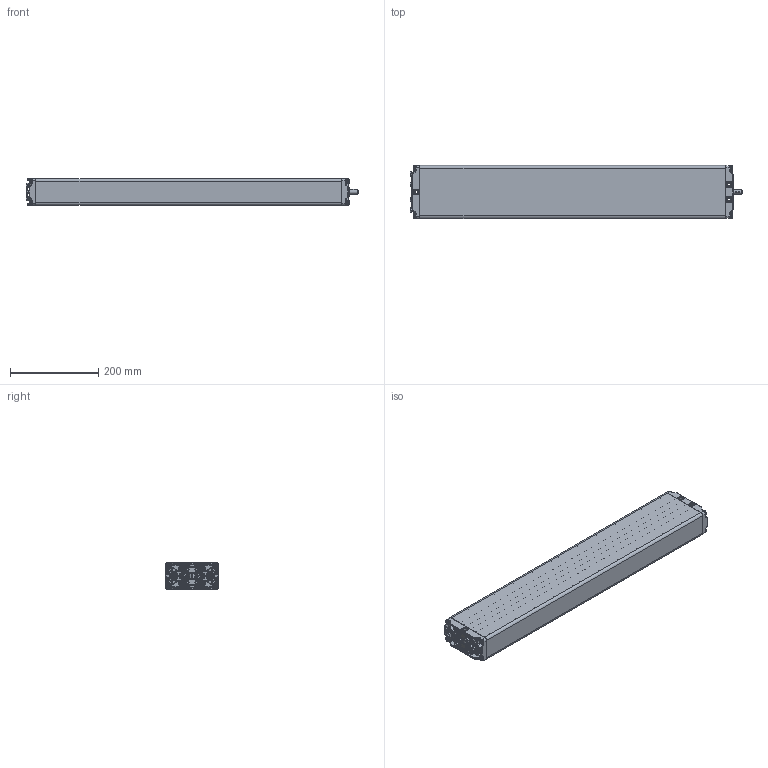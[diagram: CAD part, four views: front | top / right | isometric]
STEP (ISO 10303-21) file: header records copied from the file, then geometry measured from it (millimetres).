
FILE_DESCRIPTION(/* description */ ('Unknown'),/* implementation_level */ '2;1');
FILE_NAME(/* name */ '102.20045 Pumpe PB 6850 W',/* time_stamp */ '2016-09-05T17:39:30+02:00',/* author */ ('Unknown'),/* organization */ ('Unknown'),/* preprocessor_version */ 'ST-DEVELOPER v16.7',/* originating_system */ 'DEX',/* authorisation */ $);
FILE_SCHEMA (('AUTOMOTIVE_DESIGN {1 0 10303 214 3 1 1}'));
Products named in the file (14): 102.20045; 115.00035; 125.00045; 115.00008; 142.00021; 125.00021; 142.00013; 125.00145; 115.00140; 126.00006; 122.00040; 119.00045; 126.00005; 142.00057
Assembly tree (25 placements, depth 3):
  102.20045
    115.00035  x6
      125.00045
      115.00008
      142.00021
      125.00021
    142.00013  x8
    125.00145
    115.00140
      126.00006
      122.00040
    119.00045
    126.00005
    142.00057
Bounding box: 751.47 x 120 x 60.3 mm (x, y, z)
Volume: 907612 mm3; surface area: 624011.9 mm2
Topology: 32 solids, 32 shells, 2594 faces, 6141 edges, 3544 vertices
Faces by surface type: bspline 704, plane 703, cylinder 576, cone 375, torus 176, sphere 60
Full cylindrical faces by diameter (mm): 3.5 x6, 4.1 x6, 4.2 x6, 5 x8, 6.917 x12, 8 x13, 9.8 x8, 10 x3, 10.4 x1, 14 x1, 14.4 x6, 17.3 x6, 17.9 x12, 18 x1, 19 x1
Entity records: 97550 total; most frequent: CARTESIAN_POINT 54065, ORIENTED_EDGE 8234, DIRECTION 6555, EDGE_CURVE 4117, AXIS2_PLACEMENT_3D 2635, VERTEX_POINT 2519, FACE_BOUND 1980, EDGE_LOOP 1979
